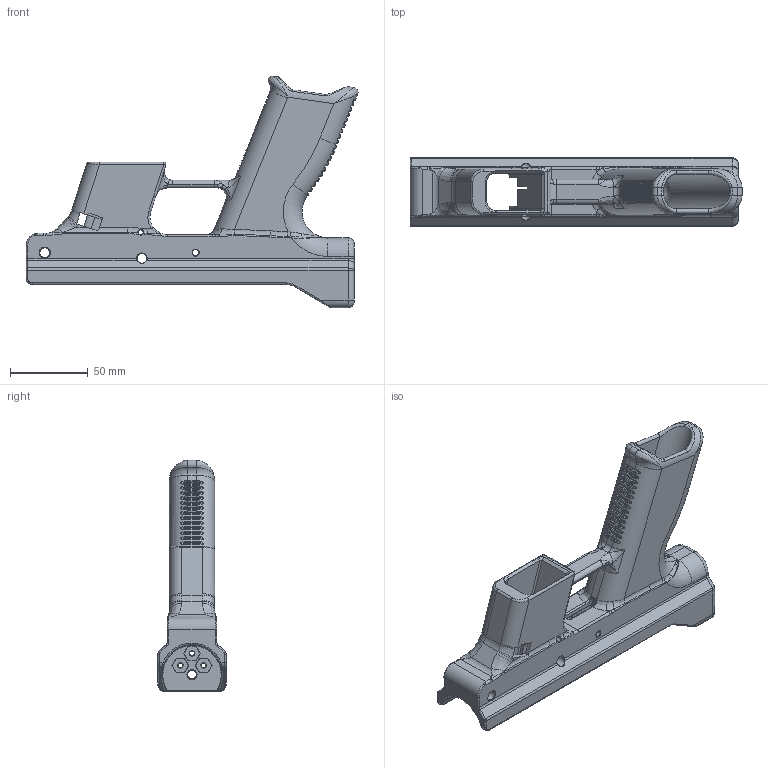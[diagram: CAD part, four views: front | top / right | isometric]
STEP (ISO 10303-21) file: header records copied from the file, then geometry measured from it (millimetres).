
FILE_DESCRIPTION(/* description */ (''),/* implementation_level */ '2;1');
FILE_NAME(/* name */ '/var/folders/q3/90_s8p4j77vgml143qxzs9nh0000gn/T/com.autodesk.mas.fusion360/Neutron/513766de-caa5-448f-be74-34fb7392d501.stp',/* time_stamp */ '2019-04-26T13:12:42-04:00',/* author */ (''),/* organization */ (''),/* preprocessor_version */ 'ST-DEVELOPER v18',/* originating_system */ 'Autodesk Translation Framework v8.2.0.1029',/* authorisation */ '');
FILE_SCHEMA (('AUTOMOTIVE_DESIGN { 1 0 10303 214 3 1 1 }'));
Length unit declared in the file: millimetre
Products named in the file (1): FreeMansGhettoBlaster
Bounding box: 213.37 x 44 x 148.84 mm (x, y, z)
Volume: 225112.7 mm3; surface area: 80597.9 mm2
Topology: 1 solids, 1 shells, 980 faces, 2386 edges, 1369 vertices
Faces by surface type: bspline 387, cylinder 272, plane 222, torus 72, cone 25, sphere 2
Full cylindrical faces by diameter (mm): 3 x3, 3.175 x2, 4 x2, 5.5 x1, 6.3 x4
Entity records: 41414 total; most frequent: CARTESIAN_POINT 20204, ORIENTED_EDGE 4718, DIRECTION 4003, EDGE_CURVE 2359, AXIS2_PLACEMENT_3D 1596, VERTEX_POINT 1370, EDGE_LOOP 1003, FACE_OUTER_BOUND 980
